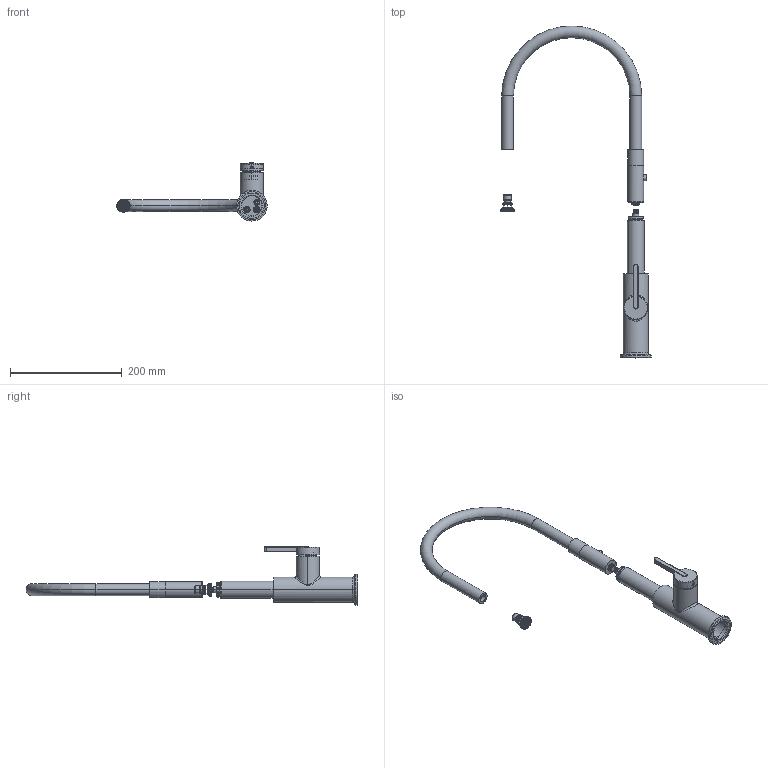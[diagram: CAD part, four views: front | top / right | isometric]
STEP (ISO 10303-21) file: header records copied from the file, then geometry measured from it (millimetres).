
FILE_DESCRIPTION((''),'2;1');
FILE_NAME('8020109_ASM','2023-03-23T',('OSSODESIGN'),(''),'PRO/ENGINEER BY PARAMETRIC TECHNOLOGY CORPORATION, 2015240','PRO/ENGINEER BY PARAMETRIC TECHNOLOGY CORPORATION, 2015240','');
FILE_SCHEMA(('CONFIG_CONTROL_DESIGN'));
Length unit declared in the file: millimetre
Products named in the file (57): 7010316_9_5; 305X281X12_9_3; 7200126-1_12_3; 7200126-2_5_6; 7200126-3_6_3; _7200126_ASM_21_3; 7200126_ASM_21_ASM_5_ASM; 27X21X77_2_3; 150122_2_1_3; 110098_2_1_3; 100051_2_1_3; _MODEL9_1_1_3; 140141_5_1_3; 220158_4_1_3; 7140128_ASM_2_ASM_4_ASM; 7050043_2_3; 7040063_2_3; 7150066_2_4; 7100171_2_3; 7100094_2_3; 7100040_2_3; 7100128_2_3; 7100216_1_3; 8020095_ASM_66_ASM_6_ASM; 7060129_32; 7260024_3; XJY-001-PJ2_7; XJY-002_7; 7090015_4; 7020248-42_5; 7020247_4; XJY-002-JT_4; 7070062_1; 18-4056-0_1; XJY-001-PJ3_5; 19-12-1_5_1; PRT0018_2; 7080235_2_3; 7070180_ASM_2_ASM_3_ASM; 7080122_2_3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
Assembly tree (67 placements, depth 6):
  8020109_ASM
    8020109_ASM_12_ASM
      8020095_ASM_66_ASM_6_ASM
        7010316_9_5
        305X281X12_9_3
        7200126_ASM_21_ASM_5_ASM
          7200126-1_12_3
          7200126-2_5_6
          7200126-3_6_3
          _7200126_ASM_21_3
        27X21X77_2_3
        7140128_ASM_2_ASM_4_ASM
          150122_2_1_3
          110098_2_1_3
          100051_2_1_3
          _MODEL9_1_1_3
          140141_5_1_3
          220158_4_1_3
        7050043_2_3
        7040063_2_3
        7150066_2_4
        7100171_2_3
        7100094_2_3  x3
        7100040_2_3
        7100128_2_3  x4
        7100216_1_3  x2
      7060129_32
      7260024_3
      XJY-001-PJ2_7
      XJY-002_7
      7090015_4
      7020248-42_5
      7020247_4
      XJY-002-JT_4
      7070062_1
      18-4056-0_1
      XJY-001-PJ3_5
      19-12-1_5_1
      8020095_X_ASM_2_ASM
        ASM0001_ASM_2_ASM
          PRT0018_2
          7070180_ASM_2_ASM_3_ASM
            7080235_2_3
          7070073_ASM_2_ASM_3_ASM
            7080122_2_3
          7070074_ASM_2_ASM_3_ASM
            7080122_2_3
          PRT0019_2  x4
          PRT0020_2  x2
          7070004_2_ASM_3_ASM
            _7070004_2_3
          7070005_2_ASM_3_ASM
            _7070005_2_3
      8020109DG_ASM_6_ASM
        7080426_3
        7070181_9
        8020109DG-1_8
      7110142_4
Bounding box: 269.45 x 595.28 x 104.2 mm (x, y, z)
Volume: 418793.9 mm3; surface area: 251176.9 mm2
Topology: 51 solids, 51 shells, 3349 faces, 8831 edges, 5708 vertices
Faces by surface type: plane 1443, cylinder 1084, torus 355, cone 248, bspline 142, sphere 68, extrusion 9
Entity records: 120311 total; most frequent: CARTESIAN_POINT 37257, DIRECTION 17610, ORIENTED_EDGE 17102, EDGE_CURVE 8551, AXIS2_PLACEMENT_3D 6597, VERTEX_POINT 5592, VECTOR 4416, LINE 4407
